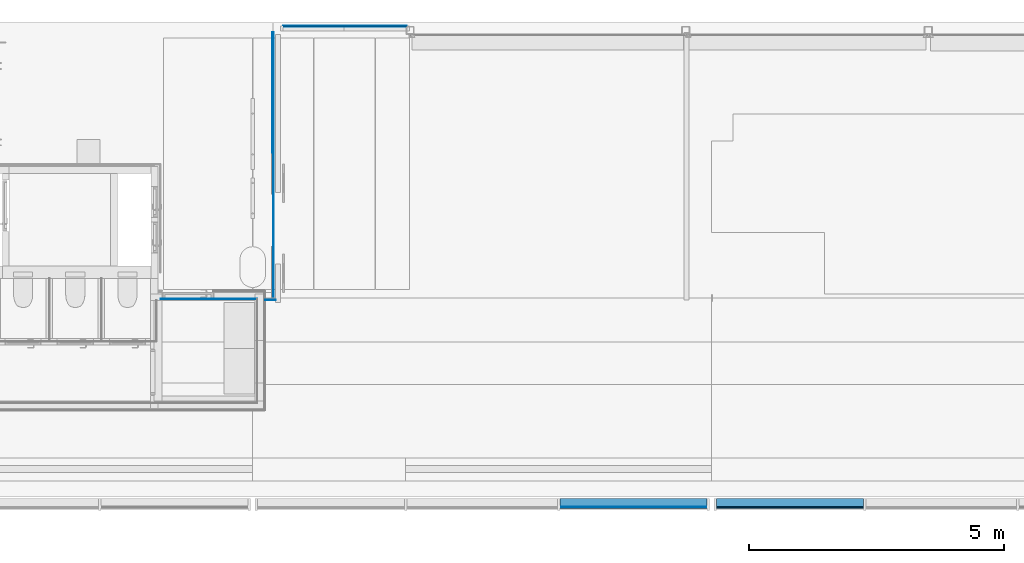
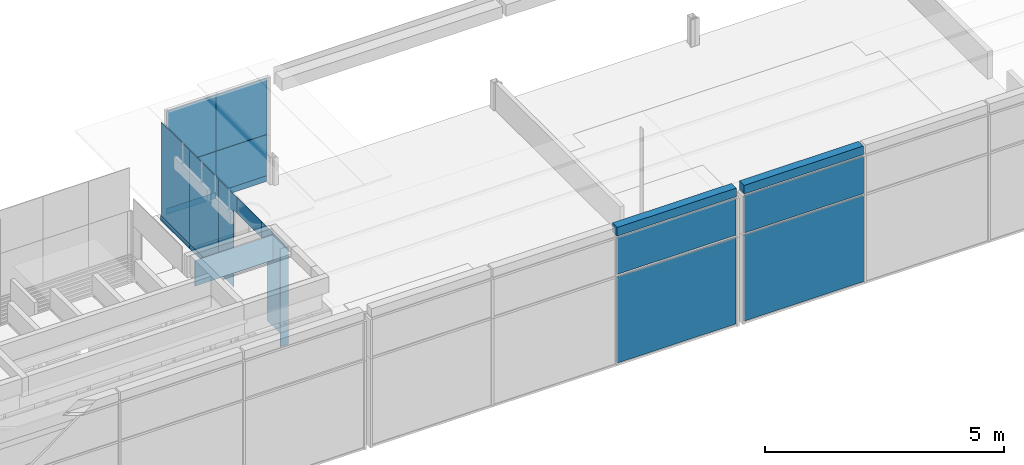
# One storey, part 9 of 26: 21 plates, 6 elements without a shape of their own.
"""IFC2X3 building model written with IfcOpenShell, lengths in millimetres."""

from ifc_helpers import new_model, entity, si_unit, converted_unit, derived_unit, direction, frame, frame_2d, origin, origin_with_axes, origin_2d_with_axis, place, context, subcontext, project, spatial, polyline, rectangle, outline, extrude, source, transform, mapped, material, layer, layer_set, type_object, element, aggregate, save


model = new_model("IFC2X3")

# Units and contexts
model_context = context("Model", 3, precision=0.01, world=frame((0.0, 4.29681676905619e-09, 0.0)), true_north=direction((4.01073788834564e-13, 1.0)))
plan_context = context("Plan", 3, precision=0.01, world=frame((0.0, 4.29681676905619e-09, 0.0)), true_north=direction((4.01073788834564e-13, 1.0)))
body_context = subcontext(model_context, "Body", "Model", "MODEL_VIEW")
ifc_project = project(units=[converted_unit("PLANEANGLEUNIT", "DEGREE", entity("IfcPositiveLengthMeasure", 0.0174532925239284), si_unit("PLANEANGLEUNIT", "RADIAN"), dimensions=[0, 0, 0, 0, 0, 0, 0]), si_unit("AREAUNIT", "SQUARE_METRE"), si_unit("LENGTHUNIT", "METRE", prefix="MILLI"), si_unit("MASSUNIT", "GRAM", prefix="KILO"), si_unit("POWERUNIT", "WATT"), si_unit("PRESSUREUNIT", "PASCAL", prefix="KILO"), si_unit("FORCEUNIT", "NEWTON", prefix="KILO"), si_unit("ELECTRICVOLTAGEUNIT", "VOLT"), si_unit("ELECTRICCURRENTUNIT", "AMPERE"), si_unit("THERMODYNAMICTEMPERATUREUNIT", "DEGREE_CELSIUS"), si_unit("TIMEUNIT", "SECOND"), si_unit("VOLUMEUNIT", "CUBIC_METRE"), derived_unit("LINEARVELOCITYUNIT", [(si_unit("LENGTHUNIT", "METRE"), 1), (si_unit("TIMEUNIT", "SECOND"), -1)]), derived_unit("VOLUMETRICFLOWRATEUNIT", [(si_unit("VOLUMEUNIT", "CUBIC_METRE"), 1), (si_unit("TIMEUNIT", "SECOND"), -1)]), derived_unit("THERMALTRANSMITTANCEUNIT", [(si_unit("POWERUNIT", "WATT"), 1), (si_unit("THERMODYNAMICTEMPERATUREUNIT", "KELVIN"), -1), (si_unit("AREAUNIT", "SQUARE_METRE"), -1)]), derived_unit("SOUNDPRESSUREUNIT", [(si_unit("PRESSUREUNIT", "PASCAL"), 1)])], contexts=[model_context, plan_context])

# Site, building, storey
site_placement = place(None, origin_with_axes())
site = spatial("IfcSite", under=ifc_project, at=site_placement, Name="ENGM", CompositionType="ELEMENT")
building_placement = place(site_placement, origin_with_axes())
building = spatial("IfcBuilding", under=site, at=building_placement, Name="TG", CompositionType="ELEMENT")
storey_placement = place(building_placement, frame((0.0, 0.0, 210200.0), z_axis=(0.0, 0.0, 1.0), x_axis=(1.0, 0.0, 0.0)))
storey = spatial("IfcBuildingStorey", under=building, at=storey_placement, Name="Nivå F - 0,7 m", CompositionType="ELEMENT", Elevation=210200.0)

# Curtain wall, plate
curtain_wall_type_1 = type_object("IfcCurtainWallType", Name="Curtain Wall:A232 - UGV - Glass 30 mm", PredefinedType="NOTDEFINED")
curtain_wall_1_placement = place(storey_placement, frame((0.0, 0.0, -210200.0), z_axis=(0.0, 0.0, 1.0), x_axis=(1.0, 0.0, 0.0)))
curtain_wall_1 = element("IfcCurtainWall", 1, at=curtain_wall_1_placement, inside=storey, type_object=curtain_wall_type_1, Name="Curtain Wall:A232 - UGV - Glass 30 mm", ObjectType="Curtain Wall:A232 - UGV - Glass 30 mm")
ifc_material_1 = material(Name="Glass (Avinor)")
plate_type_1 = type_object("IfcPlateType", Name="System Panel:A234 - Glass - 30 mm", PredefinedType="CURTAIN_PANEL", material=ifc_material_1)
shared_shape_1 = source(origin(), body_context, "Body", "SweptSolid", [
    extrude(rectangle(XDim=30.0, YDim=2880.0, at=origin_2d_with_axis()), frame((0.0, 15.0, 0.0), z_axis=(0.0, 0.0, 1.0), x_axis=(0.0, 1.0, 0.0)), (0.0, 0.0, 1.0), 2200.0),
])
plate_1_placement = place(curtain_wall_1_placement, frame((338464.725000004, 457999.999999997, 210230.0), z_axis=(0.0, 0.0, 1.0), x_axis=(-1.0, 0.0, 0.0)))
plate_1 = element("IfcPlate", 2, at=plate_1_placement, type_object=plate_type_1, material=ifc_material_1, Name="System Panel:A234 - Glass - 30 mm", ObjectType="System Panel:A234 - Glass - 30 mm", context=body_context, shape_type="MappedRepresentation", body=[
    mapped(shared_shape_1, transform((0.0, 0.0, 0.0), scale=1.0)),
])

curtain_wall_2_placement = place(storey_placement, frame((0.0, 0.0, -210200.0), z_axis=(0.0, 0.0, 1.0), x_axis=(1.0, 0.0, 0.0)))
curtain_wall_2 = element("IfcCurtainWall", 3, at=curtain_wall_2_placement, inside=storey, type_object=curtain_wall_type_1, Name="Curtain Wall:A232 - UGV - Glass 30 mm", ObjectType="Curtain Wall:A232 - UGV - Glass 30 mm")
plate_2_placement = place(curtain_wall_2_placement, frame((341534.725000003, 458000.000000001, 210230.0), z_axis=(0.0, 0.0, 1.0), x_axis=(-1.0, 0.0, 0.0)))
plate_2 = element("IfcPlate", 4, at=plate_2_placement, type_object=plate_type_1, material=ifc_material_1, Name="System Panel:A234 - Glass - 30 mm", ObjectType="System Panel:A234 - Glass - 30 mm", context=body_context, shape_type="MappedRepresentation", body=[
    mapped(shared_shape_1, transform((0.0, 0.0, 0.0), scale=1.0)),
])

# Plate
plate_type_2 = type_object("IfcPlateType", Name="System Panel:A245 - Glass - 10 mm", PredefinedType="CURTAIN_PANEL", material=ifc_material_1)
shared_shape_2 = source(origin(), body_context, "Body", "SweptSolid", [
    extrude(rectangle(XDim=10.0, YDim=2880.0, at=origin_2d_with_axis()), frame((0.0, 5.0, 0.0), z_axis=(0.0, 0.0, 1.0), x_axis=(0.0, 1.0, 0.0)), (0.0, 0.0, 1.0), 950.000000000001),
])
plate_3_placement = place(curtain_wall_1_placement, frame((338464.725000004, 457999.999999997, 212480.0), z_axis=(0.0, 0.0, 1.0), x_axis=(-1.0, 0.0, 0.0)))
plate_3 = element("IfcPlate", 5, at=plate_3_placement, type_object=plate_type_2, material=ifc_material_1, Name="System Panel:A245 - Glass - 10 mm", ObjectType="System Panel:A245 - Glass - 10 mm", context=body_context, shape_type="MappedRepresentation", body=[
    mapped(shared_shape_2, transform((0.0, 0.0, 0.0), scale=1.0)),
])

plate_type_3 = type_object("IfcPlateType", Name="System Panel:A234 - Glass - 30 mm", PredefinedType="CURTAIN_PANEL", material=ifc_material_1)
shared_shape_3 = source(origin(), body_context, "Body", "SweptSolid", [
    extrude(rectangle(XDim=30.0, YDim=2880.0, at=origin_2d_with_axis()), frame((0.0, 15.0, 0.0), z_axis=(0.0, 0.0, 1.0), x_axis=(0.0, 1.0, 0.0)), (0.0, 0.0, 1.0), 950.000000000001),
])
plate_4_placement = place(curtain_wall_2_placement, frame((341534.725000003, 458000.000000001, 212480.0), z_axis=(0.0, 0.0, 1.0), x_axis=(-1.0, 0.0, 0.0)))
plate_4 = element("IfcPlate", 6, at=plate_4_placement, type_object=plate_type_3, material=ifc_material_1, Name="System Panel:A234 - Glass - 30 mm", ObjectType="System Panel:A234 - Glass - 30 mm", context=body_context, shape_type="MappedRepresentation", body=[
    mapped(shared_shape_3, transform((0.0, 0.0, 0.0), scale=1.0)),
])

# Curtain wall, plate
curtain_wall_type_2 = type_object("IfcCurtainWallType", Name="Curtain Wall:A242 - IGV - Glass - 6 mm", PredefinedType="NOTDEFINED")
curtain_wall_3_placement = place(storey_placement, frame((0.0, 0.0, -210200.0), z_axis=(0.0, 0.0, 1.0), x_axis=(1.0, 0.0, 0.0)))
curtain_wall_3 = element("IfcCurtainWall", 7, at=curtain_wall_3_placement, inside=storey, type_object=curtain_wall_type_2, Name="Curtain Wall:A242 - IGV - Glass - 6 mm", ObjectType="Curtain Wall:A242 - IGV - Glass - 6 mm")
plate_type_4 = type_object("IfcPlateType", Name="System Panel:A245 - Glass - 6 mm", PredefinedType="CURTAIN_PANEL", material=ifc_material_1)
shared_shape_4 = source(origin(), body_context, "Body", "SweptSolid", [
    extrude(rectangle(XDim=6.0, YDim=1894.49999998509, at=origin_2d_with_axis()), frame((0.0, -3.0, 0.0), z_axis=(0.0, 0.0, 1.0), x_axis=(0.0, 1.0, 0.0)), (0.0, 0.0, 1.0), 649.999999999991),
])
plate_5_placement = place(curtain_wall_3_placement, frame((330140.749999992, 462072.326061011, 212450.0), z_axis=(0.0, 0.0, 1.0), x_axis=(-1.0, 0.0, 0.0)))
plate_5 = element("IfcPlate", 8, at=plate_5_placement, type_object=plate_type_4, material=ifc_material_1, Name="System Panel:A245 - Glass - 6 mm", ObjectType="System Panel:A245 - Glass - 6 mm", context=body_context, shape_type="MappedRepresentation", body=[
    mapped(shared_shape_4, transform((0.0, 0.0, 0.0), scale=1.0)),
])
aggregate(curtain_wall_3, [plate_5])

curtain_wall_type_3 = type_object("IfcCurtainWallType", Name="Curtain Wall:A242 - IGV - Glass - 10 mm", PredefinedType="NOTDEFINED")
curtain_wall_4_placement = place(storey_placement, frame((0.0, 0.0, -210200.0), z_axis=(0.0, 0.0, 1.0), x_axis=(1.0, 0.0, 0.0)))
curtain_wall_4 = element("IfcCurtainWall", 9, at=curtain_wall_4_placement, inside=storey, type_object=curtain_wall_type_3, Name="Curtain Wall:A242 - IGV - Glass - 10 mm", ObjectType="Curtain Wall:A242 - IGV - Glass - 10 mm")
plate_type_5 = type_object("IfcPlateType", Name="System Panel:A245 - Glass - 10 mm", PredefinedType="CURTAIN_PANEL", material=ifc_material_1)
shared_shape_5 = source(origin(), body_context, "Body", "SweptSolid", [
    extrude(rectangle(XDim=10.0, YDim=203.69410122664, at=origin_2d_with_axis()), frame((0.0, -5.0, 0.0), z_axis=(0.0, 0.0, 1.0), x_axis=(0.0, 1.0, 0.0)), (0.0, 0.0, 1.0), 2499.99999999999),
])
plate_6_placement = place(curtain_wall_4_placement, frame((331346.845212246, 462049.631031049, 210200.0), z_axis=(0.0, 0.0, 1.0), x_axis=(-1.0, 0.0, 0.0)))
plate_6 = element("IfcPlate", 10, at=plate_6_placement, type_object=plate_type_5, material=ifc_material_1, Name="System Panel:A245 - Glass - 10 mm", ObjectType="System Panel:A245 - Glass - 10 mm", context=body_context, shape_type="MappedRepresentation", body=[
    mapped(shared_shape_5, transform((0.0, 0.0, 0.0), scale=1.0)),
])
aggregate(curtain_wall_4, [plate_6])

# Curtain wall, plates
curtain_wall_type_4 = type_object("IfcCurtainWallType", Name="Curtain Wall:A245 - ITK-01", PredefinedType="NOTDEFINED")
curtain_wall_5_placement = place(storey_placement, frame((0.0, 0.0, -210200.0), z_axis=(0.0, 0.0, 1.0), x_axis=(1.0, 0.0, 0.0)))
curtain_wall_5 = element("IfcCurtainWall", 11, at=curtain_wall_5_placement, inside=storey, type_object=curtain_wall_type_4, Name="Curtain Wall:A245 - ITK-01", ObjectType="Curtain Wall:A245 - ITK-01")
ifc_material_2 = material(Name="Metal - Preget plate")
plate_type_6 = type_object("IfcPlateType", Name="System Panel:A245 - KL-M00 - - - skal byttes manuelt", PredefinedType="CURTAIN_PANEL", material=ifc_material_2)
shared_shape_6 = source(origin(), body_context, "Body", "SweptSolid", [
    extrude(rectangle(XDim=10.0, YDim=1234.76193162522, at=frame_2d((8.88178419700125e-16, 0.0), x_axis=(1.0, 0.0))), frame((0.0, 10.0, 0.0), z_axis=(0.0, 0.0, 1.0), x_axis=(0.0, 1.0, 0.0)), (0.0, 0.0, 1.0), 150.000000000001),
])
plate_7_placement = place(curtain_wall_5_placement, frame((333406.073228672, 467431.499999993, 210200.0), z_axis=(0.0, 0.0, 1.0), x_axis=(-1.0, 0.0, 0.0)))
plate_7 = element("IfcPlate", 12, at=plate_7_placement, type_object=plate_type_6, material=ifc_material_2, Name="System Panel:A245 - KL-M00 - - - skal byttes manuelt", ObjectType="System Panel:A245 - KL-M00 - - - skal byttes manuelt", context=body_context, shape_type="MappedRepresentation", body=[
    mapped(shared_shape_6, transform((0.0, 0.0, 0.0), scale=1.0)),
])
plate_type_7 = type_object("IfcPlateType", Name="System Panel:A245 - KL-M00 - - - skal byttes manuelt", PredefinedType="CURTAIN_PANEL", material=ifc_material_2)
shared_shape_7 = source(origin(), body_context, "Body", "SweptSolid", [
    extrude(rectangle(XDim=10.0, YDim=1189.99999999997, at=frame_2d((8.88178419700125e-16, 0.0), x_axis=(1.0, 0.0))), frame((0.0, 10.0, 0.0), z_axis=(0.0, 0.0, 1.0), x_axis=(0.0, 1.0, 0.0)), (0.0, 0.0, 1.0), 150.000000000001),
])
plate_8_placement = place(curtain_wall_5_placement, frame((332193.69226286, 467431.499999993, 210200.0), z_axis=(0.0, 0.0, 1.0), x_axis=(-1.0, 0.0, 0.0)))
plate_8 = element("IfcPlate", 13, at=plate_8_placement, type_object=plate_type_7, material=ifc_material_2, Name="System Panel:A245 - KL-M00 - - - skal byttes manuelt", ObjectType="System Panel:A245 - KL-M00 - - - skal byttes manuelt", context=body_context, shape_type="MappedRepresentation", body=[
    mapped(shared_shape_7, transform((0.0, 0.0, 0.0), scale=1.0)),
])
ifc_material_3 = material(Name="T2_Tre Finerplate")
plate_type_8 = type_object("IfcPlateType", Name="System Panel:A245 - KL-T00 - - - skal byttes manuelt", PredefinedType="CURTAIN_PANEL", material=ifc_material_3)
shared_shape_8 = source(origin(), body_context, "Body", "SweptSolid", [
    extrude(rectangle(XDim=20.0, YDim=1234.76193162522, at=origin_2d_with_axis()), frame((0.0, 10.0, 0.0), z_axis=(0.0, 0.0, 1.0), x_axis=(0.0, 1.0, 0.0)), (0.0, 0.0, 1.0), 1050.0),
])
plate_9_placement = place(curtain_wall_5_placement, frame((333406.073228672, 467431.499999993, 210350.0), z_axis=(0.0, 0.0, 1.0), x_axis=(-1.0, 0.0, 0.0)))
plate_9 = element("IfcPlate", 14, at=plate_9_placement, type_object=plate_type_8, material=ifc_material_3, Name="System Panel:A245 - KL-T00 - - - skal byttes manuelt", ObjectType="System Panel:A245 - KL-T00 - - - skal byttes manuelt", context=body_context, shape_type="MappedRepresentation", body=[
    mapped(shared_shape_8, transform((0.0, 0.0, 0.0), scale=1.0)),
])
plate_type_9 = type_object("IfcPlateType", Name="System Panel:A245 - KL-T00 - - - skal byttes manuelt", PredefinedType="CURTAIN_PANEL", material=ifc_material_3)
shared_shape_9 = source(origin(), body_context, "Body", "SweptSolid", [
    extrude(rectangle(XDim=20.0, YDim=1189.99999999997, at=origin_2d_with_axis()), frame((0.0, 10.0, 0.0), z_axis=(0.0, 0.0, 1.0), x_axis=(0.0, 1.0, 0.0)), (0.0, 0.0, 1.0), 1050.0),
])
plate_10_placement = place(curtain_wall_5_placement, frame((332193.69226286, 467431.499999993, 210350.0), z_axis=(0.0, 0.0, 1.0), x_axis=(-1.0, 0.0, 0.0)))
plate_10 = element("IfcPlate", 15, at=plate_10_placement, type_object=plate_type_9, material=ifc_material_3, Name="System Panel:A245 - KL-T00 - - - skal byttes manuelt", ObjectType="System Panel:A245 - KL-T00 - - - skal byttes manuelt", context=body_context, shape_type="MappedRepresentation", body=[
    mapped(shared_shape_9, transform((0.0, 0.0, 0.0), scale=1.0)),
])
plate_type_10 = type_object("IfcPlateType", Name="System Panel:A245 - T1 - Glass - 10 mm", PredefinedType="CURTAIN_PANEL", material=ifc_material_1)
shared_shape_10 = source(origin(), body_context, "Body", "SweptSolid", [
    extrude(rectangle(XDim=10.0, YDim=1234.76193162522, at=origin_2d_with_axis()), frame((0.0, 5.0, 0.0), z_axis=(0.0, 0.0, 1.0), x_axis=(0.0, 1.0, 0.0)), (0.0, 0.0, 1.0), 1450.00000000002),
])
plate_11_placement = place(curtain_wall_5_placement, frame((333406.073228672, 467431.499999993, 211400.0), z_axis=(0.0, 0.0, 1.0), x_axis=(-1.0, 0.0, 0.0)))
plate_11 = element("IfcPlate", 16, at=plate_11_placement, type_object=plate_type_10, material=ifc_material_1, Name="System Panel:A245 - T1 - Glass - 10 mm", ObjectType="System Panel:A245 - T1 - Glass - 10 mm", context=body_context, shape_type="MappedRepresentation", body=[
    mapped(shared_shape_10, transform((0.0, 0.0, 0.0), scale=1.0)),
])
plate_type_11 = type_object("IfcPlateType", Name="System Panel:A245 - T1 - Glass - 10 mm", PredefinedType="CURTAIN_PANEL", material=ifc_material_1)
shared_shape_11 = source(origin(), body_context, "Body", "SweptSolid", [
    extrude(rectangle(XDim=10.0, YDim=1189.99999999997, at=origin_2d_with_axis()), frame((0.0, 5.0, 0.0), z_axis=(0.0, 0.0, 1.0), x_axis=(0.0, 1.0, 0.0)), (0.0, 0.0, 1.0), 1450.00000000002),
])
plate_12_placement = place(curtain_wall_5_placement, frame((332193.69226286, 467431.499999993, 211400.0), z_axis=(0.0, 0.0, 1.0), x_axis=(-1.0, 0.0, 0.0)))
plate_12 = element("IfcPlate", 17, at=plate_12_placement, type_object=plate_type_11, material=ifc_material_1, Name="System Panel:A245 - T1 - Glass - 10 mm", ObjectType="System Panel:A245 - T1 - Glass - 10 mm", context=body_context, shape_type="MappedRepresentation", body=[
    mapped(shared_shape_11, transform((0.0, 0.0, 0.0), scale=1.0)),
])
aggregate(curtain_wall_5, [plate_7, plate_8, plate_9, plate_10, plate_11, plate_12])

curtain_wall_6_placement = place(storey_placement, frame((0.0, 0.0, -210200.0), z_axis=(0.0, 0.0, 1.0), x_axis=(1.0, 0.0, 0.0)))
curtain_wall_6 = element("IfcCurtainWall", 18, at=curtain_wall_6_placement, inside=storey, type_object=curtain_wall_type_3, Name="Curtain Wall:A242 - IGV - Glass - 10 mm", ObjectType="Curtain Wall:A242 - IGV - Glass - 10 mm")
ifc_material_4 = material(Name="Metal - Panel")
plate_type_12 = type_object("IfcPlateType", Name="System Panel:A245 - KL-M06 - Veggkledning metallplate fendring", PredefinedType="CURTAIN_PANEL", material=ifc_material_4)
shared_shape_12 = source(origin(), body_context, "Body", "SweptSolid", [
    extrude(rectangle(XDim=15.0, YDim=1200.0, at=origin_2d_with_axis()), frame((0.0, -4.5, 0.0), z_axis=(0.0, 0.0, 1.0), x_axis=(0.0, 1.0, 0.0)), (0.0, 0.0, 1.0), 120.000000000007),
])
plate_13_placement = place(curtain_wall_6_placement, frame((331398.69226286, 466703.499999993, 210200.0), z_axis=(0.0, 0.0, 1.0), x_axis=(0.0, -1.0, 0.0)))
plate_13 = element("IfcPlate", 19, at=plate_13_placement, type_object=plate_type_12, material=ifc_material_4, Name="System Panel:A245 - KL-M06 - Veggkledning metallplate fendring", ObjectType="System Panel:A245 - KL-M06 - Veggkledning metallplate fendring", context=body_context, shape_type="MappedRepresentation", body=[
    mapped(shared_shape_12, transform((0.0, 0.0, 0.0), scale=1.0)),
])
plate_14_placement = place(curtain_wall_6_placement, frame((331398.69226286, 465503.499999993, 210200.0), z_axis=(0.0, 0.0, 1.0), x_axis=(0.0, -1.0, 0.0)))
plate_14 = element("IfcPlate", 20, at=plate_14_placement, type_object=plate_type_12, material=ifc_material_4, Name="System Panel:A245 - KL-M06 - Veggkledning metallplate fendring", ObjectType="System Panel:A245 - KL-M06 - Veggkledning metallplate fendring", context=body_context, shape_type="MappedRepresentation", body=[
    mapped(shared_shape_12, transform((0.0, 0.0, 0.0), scale=1.0)),
])
plate_type_13 = type_object("IfcPlateType", Name="System Panel:A245 - Glass - 10 mm", PredefinedType="CURTAIN_PANEL", material=ifc_material_1)
shared_shape_13 = source(origin(), body_context, "Body", "SweptSolid", [
    extrude(rectangle(XDim=10.0, YDim=1200.0, at=origin_2d_with_axis()), frame((0.0, 5.0, 0.0), z_axis=(0.0, 0.0, 1.0), x_axis=(0.0, 1.0, 0.0)), (0.0, 0.0, 1.0), 2379.99999999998),
])
plate_15_placement = place(curtain_wall_6_placement, frame((331398.69226286, 466703.499999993, 210320.0), z_axis=(0.0, 0.0, 1.0), x_axis=(0.0, -1.0, 0.0)))
plate_15 = element("IfcPlate", 21, at=plate_15_placement, type_object=plate_type_13, material=ifc_material_1, Name="System Panel:A245 - Glass - 10 mm", ObjectType="System Panel:A245 - Glass - 10 mm", context=body_context, shape_type="MappedRepresentation", body=[
    mapped(shared_shape_13, transform((0.0, 0.0, 0.0), scale=1.0)),
])
plate_16_placement = place(curtain_wall_6_placement, frame((331398.69226286, 465503.499999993, 210320.0), z_axis=(0.0, 0.0, 1.0), x_axis=(0.0, -1.0, 0.0)))
plate_16 = element("IfcPlate", 22, at=plate_16_placement, type_object=plate_type_13, material=ifc_material_1, Name="System Panel:A245 - Glass - 10 mm", ObjectType="System Panel:A245 - Glass - 10 mm", context=body_context, shape_type="MappedRepresentation", body=[
    mapped(shared_shape_13, transform((0.0, 0.0, 0.0), scale=1.0)),
])
plate_type_14 = type_object("IfcPlateType", Name="System Panel:A245 - Glass - 10 mm", PredefinedType="CURTAIN_PANEL", material=ifc_material_1)
shared_shape_14 = source(origin(), body_context, "Body", "SweptSolid", [
    extrude(outline(polyline([(-1453.33333333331, -469.02777763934), (926.666666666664, -469.02777763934), (926.666666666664, 304.513888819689), (526.666666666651, 304.513888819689), (526.666666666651, 164.513888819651), (-1453.33333333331, 164.513888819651), (-1453.33333333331, -469.02777763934)])), frame((82.2569444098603, 0.0, 1453.33333333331), z_axis=(0.0, 1.0, 0.0), x_axis=(0.0, 0.0, 1.0)), (0.0, 0.0, 1.0), 10.0),
])
plate_17_placement = place(curtain_wall_6_placement, frame((331398.69226286, 464516.729166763, 210320.0), z_axis=(0.0, 0.0, 1.0), x_axis=(0.0, -1.0, 0.0)))
plate_17 = element("IfcPlate", 23, at=plate_17_placement, type_object=plate_type_14, material=ifc_material_1, Name="System Panel:A245 - Glass - 10 mm", ObjectType="System Panel:A245 - Glass - 10 mm", context=body_context, shape_type="MappedRepresentation", body=[
    mapped(shared_shape_14, transform((0.0, 0.0, 0.0), scale=1.0)),
])
plate_type_15 = type_object("IfcPlateType", Name="System Panel:A245 - Glass - 10 mm", PredefinedType="CURTAIN_PANEL", material=ifc_material_1)
shared_shape_15 = source(origin(), body_context, "Body", "SweptSolid", [
    extrude(rectangle(XDim=10.0, YDim=1019.99999999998, at=origin_2d_with_axis()), frame((0.0, 5.0, 0.0), z_axis=(0.0, 0.0, 1.0), x_axis=(0.0, 1.0, 0.0)), (0.0, 0.0, 1.0), 400.000000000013),
])
plate_18_placement = place(curtain_wall_6_placement, frame((331398.69226286, 463619.958333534, 212300.0), z_axis=(0.0, 0.0, 1.0), x_axis=(0.0, -1.0, 0.0)))
plate_18 = element("IfcPlate", 24, at=plate_18_placement, type_object=plate_type_15, material=ifc_material_1, Name="System Panel:A245 - Glass - 10 mm", ObjectType="System Panel:A245 - Glass - 10 mm", context=body_context, shape_type="MappedRepresentation", body=[
    mapped(shared_shape_15, transform((0.0, 0.0, 0.0), scale=1.0)),
])
plate_type_16 = type_object("IfcPlateType", Name="System Panel:A245 - Glass - 10 mm", PredefinedType="CURTAIN_PANEL", material=ifc_material_1)
shared_shape_16 = source(origin(), body_context, "Body", "SweptSolid", [
    extrude(outline(polyline([(-1453.33333333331, 169.986111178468), (-1453.33333333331, -579.972222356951), (926.666666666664, -579.972222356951), (926.666666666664, 409.986111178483), (526.666666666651, 409.986111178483), (526.666666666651, 169.986111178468), (-1453.33333333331, 169.986111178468)])), frame((-84.9930555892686, 0.0, 1453.33333333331), z_axis=(0.0, -1.0, 0.0), x_axis=(0.0, 0.0, 1.0)), (0.0, 0.0, -1.0), 10.0),
])
plate_19_placement = place(curtain_wall_6_placement, frame((331398.69226286, 462614.979166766, 210320.0), z_axis=(0.0, 0.0, 1.0), x_axis=(0.0, -1.0, 0.0)))
plate_19 = element("IfcPlate", 25, at=plate_19_placement, type_object=plate_type_16, material=ifc_material_1, Name="System Panel:A245 - Glass - 10 mm", ObjectType="System Panel:A245 - Glass - 10 mm", context=body_context, shape_type="MappedRepresentation", body=[
    mapped(shared_shape_16, transform((0.0, 0.0, 0.0), scale=1.0)),
])
aggregate(curtain_wall_6, [plate_13, plate_14, plate_15, plate_16, plate_17, plate_18, plate_19])

# Plate
ifc_material_5 = material(Name="_NSW Aluminium")
ifc_layer_1 = layer(ifc_material_5, 10.0)
ifc_material_6 = material(Name="_NSW Luftspalte")
ifc_layer_2 = layer(ifc_material_6, 25.0)
ifc_layer_3 = layer(ifc_material_6, 45.0)
ifc_material_7 = material(Name="_NSW Isolasjon")
ifc_layer_4 = layer(ifc_material_7, 115.0)
ifc_layer_5 = layer(ifc_material_5, 5.0)
ifc_layer_set = layer_set([ifc_layer_1, ifc_layer_2, ifc_layer_3, ifc_layer_4, ifc_layer_5], Name="Basic Wall:A234 - Blindfelt (eksisterende pir)")
plate_type_17 = type_object("IfcPlateType", Name="Basic Wall:A234 - Blindfelt (eksisterende pir)", PredefinedType="CURTAIN_PANEL", material=ifc_layer_set)
plate_20_placement = place(curtain_wall_1_placement, frame((339904.725000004, 458064.999999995, 213480.0), z_axis=(0.0, 0.0, 1.0), x_axis=(-1.0, 0.0, 0.0)))
plate_20 = element("IfcPlate", 26, at=plate_20_placement, type_object=plate_type_17, Name="Basic Wall:A234 - Blindfelt (eksisterende pir)", ObjectType="Basic Wall:A234 - Blindfelt (eksisterende pir)", context=body_context, shape_type="SweptSolid", body=[
    extrude(rectangle(XDim=219.999999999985, YDim=200.000000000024, at=frame_2d((-1.73301373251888e-11, 3.46531692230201e-11), x_axis=(1.0, 0.0))), frame((2880.0, 0.0, 110.0), z_axis=(-1.0, 0.0, 0.0), x_axis=(0.0, 0.0, 1.0)), (0.0, 0.0, 1.0), 2880.00000000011),
])

aggregate(curtain_wall_1, [plate_1, plate_3, plate_20])

plate_21_placement = place(curtain_wall_2_placement, frame((342974.725000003, 458065.0, 213480.0), z_axis=(0.0, 0.0, 1.0), x_axis=(-1.0, 0.0, 0.0)))
plate_21 = element("IfcPlate", 27, at=plate_21_placement, type_object=plate_type_17, Name="Basic Wall:A234 - Blindfelt (eksisterende pir)", ObjectType="Basic Wall:A234 - Blindfelt (eksisterende pir)", context=body_context, shape_type="SweptSolid", body=[
    extrude(rectangle(XDim=219.999999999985, YDim=200.000000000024, at=frame_2d((-1.73301373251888e-11, 3.46531692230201e-11), x_axis=(1.0, 0.0))), frame((2880.0, 0.0, 110.0), z_axis=(-1.0, 0.0, 0.0), x_axis=(0.0, 0.0, 1.0)), (0.0, 0.0, 1.0), 2880.00000000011),
])

aggregate(curtain_wall_2, [plate_2, plate_4, plate_21])

save(model, "model.ifc")
